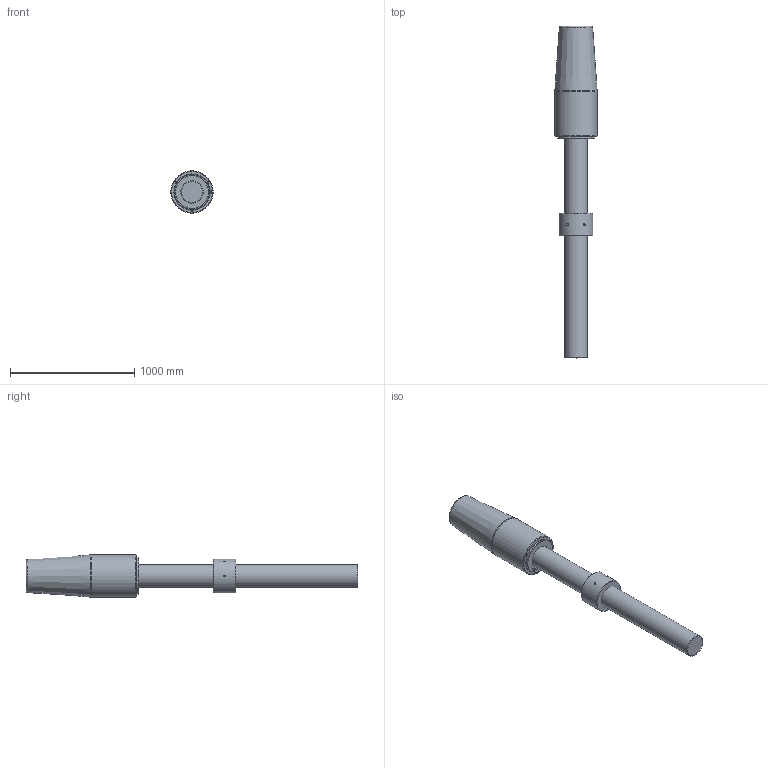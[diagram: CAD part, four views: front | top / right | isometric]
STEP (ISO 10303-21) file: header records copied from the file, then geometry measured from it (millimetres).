
FILE_DESCRIPTION(/* description */ (''),/* implementation_level */ '2;1');
FILE_NAME(/* name */ 'D:\Clienti\Redaelli (inventor)\CYB\STEP\Arrangement\CYB116 52 061 0.stp',/* time_stamp */ '2021-05-08T14:57:06+02:00',/* author */ ('fabri'),/* organization */ (''),/* preprocessor_version */ 'ST-DEVELOPER v16.13',/* originating_system */ 'Autodesk Inventor 2018',/* authorisation */ '');
FILE_SCHEMA (('AP203_CONFIGURATION_CONTROLLED_3D_DESIGN_OF_MECHANICAL_PARTS_AND_ASSEMBLIES_MIM_LF { 1 0 10303 203 3 1 4 }','AUTOMOTIVE_DESIGN { 1 0 10303 214 3 1 1 }'));
Length unit declared in the file: millimetre
Products named in the file (5): CYB116 52 061 0; RNT052 41 051 0_ROD; RNT052 41 051 0_ROD_1; CCY021-51-061-0_BUSH; CCY021-51-061-0
Assembly tree (4 placements, depth 2):
  CYB116 52 061 0
    RNT052 41 051 0_ROD
    RNT052 41 051 0_ROD_1
    CCY021-51-061-0_BUSH
    CCY021-51-061-0
Bounding box: 340 x 2667 x 340 mm (x, y, z)
Volume: 135140294.2 mm3; surface area: 2947947.8 mm2
Topology: 4 solids, 4 shells, 691 faces, 1860 edges, 1235 vertices
Faces by surface type: plane 333, bspline 320, cylinder 18, cone 16, torus 4
Full cylindrical faces by diameter (mm): 15 x6, 17.294 x3, 171.34 x2, 180 x1, 182 x1, 248 x1, 260 x1, 270 x1, 290 x1, 340 x1
Entity records: 23220 total; most frequent: CARTESIAN_POINT 8121, ORIENTED_EDGE 3622, DIRECTION 1963, EDGE_CURVE 1811, VERTEX_POINT 1225, LINE 1117, VECTOR 1117, EDGE_LOOP 792
